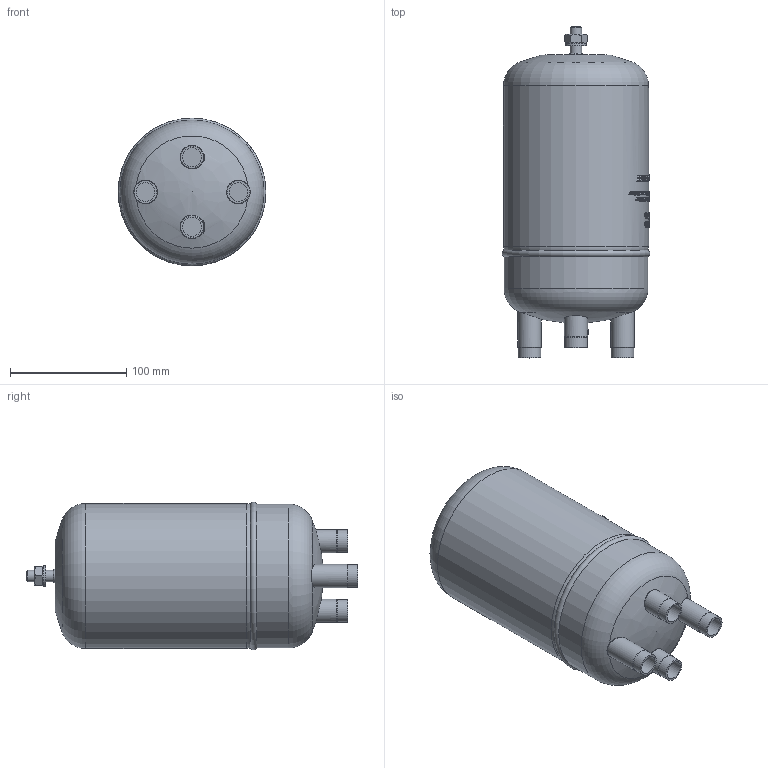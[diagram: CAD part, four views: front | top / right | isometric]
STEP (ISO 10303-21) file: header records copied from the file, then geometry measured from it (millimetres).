
FILE_DESCRIPTION(/* description */ (''),/* implementation_level */ '2;1');
FILE_NAME(/* name */ 'P:\FA\FA-16W\FA-16W.stp',/* time_stamp */ '2017-10-04T15:56:17+02:00',/* author */ ('neufeld'),/* organization */ (''),/* preprocessor_version */ 'ST-DEVELOPER v16.1',/* originating_system */ 'Autodesk Inventor 2016',/* authorisation */ '');
FILE_SCHEMA (('AUTOMOTIVE_DESIGN { 1 0 10303 214 3 1 1 }'));
Length unit declared in the file: millimetre
Products named in the file (2): FA-16W; FA-16W_1
Assembly tree (1 placements, depth 2):
  FA-16W_1
    FA-16W
Bounding box: 127.4 x 286 x 127.4 mm (x, y, z)
Volume: 2676640.7 mm3; surface area: 116571.6 mm2
Topology: 1 solids, 1 shells, 1329 faces, 3591 edges, 2376 vertices
Faces by surface type: plane 686, bspline 451, cylinder 151, cone 35, torus 5, sphere 1
Full cylindrical faces by diameter (mm): 10 x2, 16.2 x4, 19.4 x4, 20 x4, 124 x1, 125 x1
Entity records: 51068 total; most frequent: CARTESIAN_POINT 20191, ORIENTED_EDGE 7102, DIRECTION 5244, EDGE_CURVE 3551, VERTEX_POINT 2366, AXIS2_PLACEMENT_3D 1806, LINE 1632, VECTOR 1632
